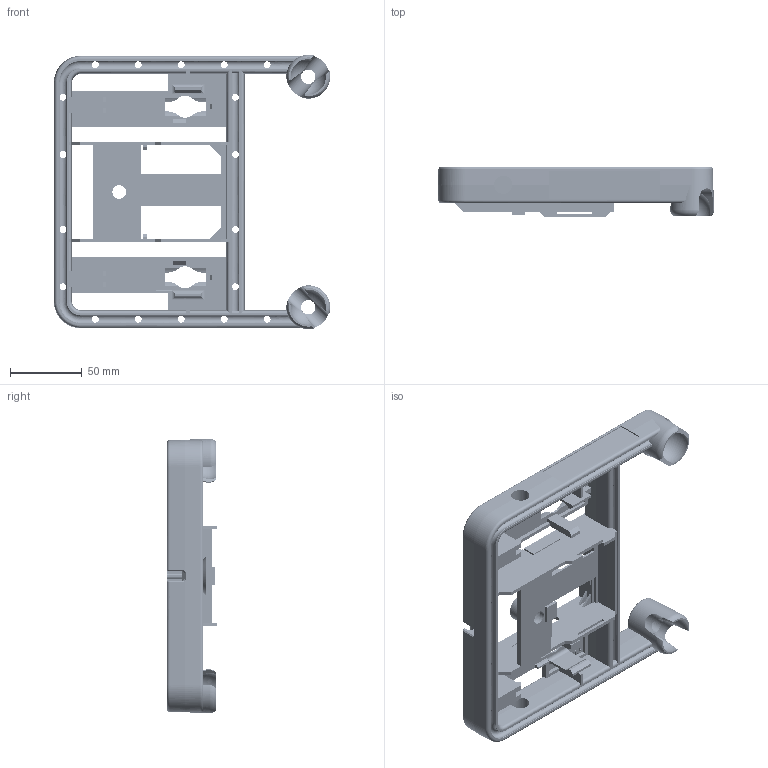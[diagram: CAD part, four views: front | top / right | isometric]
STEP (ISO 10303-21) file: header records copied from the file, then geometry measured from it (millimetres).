
FILE_DESCRIPTION(/* description */ (''),/* implementation_level */ '2;1');
FILE_NAME(/* name */ 'IEEE Frame v2.step',/* time_stamp */ '2024-08-23T13:40:14-04:00',/* author */ (''),/* organization */ (''),/* preprocessor_version */ 'ST-DEVELOPER v20',/* originating_system */ 'Autodesk Translation Framework v13.14.0.145',/* authorisation */ '');
FILE_SCHEMA (('AUTOMOTIVE_DESIGN { 1 0 10303 214 3 1 1 }'));
Products named in the file (10): IEEE Frame; Component9; part_object_id_2; part_object_id_4; part_object_id_6; part_object_id_8; part_object_id_10; part_object_id_12; part_object_id_14; part_object_id_16
Assembly tree (9 placements, depth 3):
  IEEE Frame
    Component9
      part_object_id_2
      part_object_id_4
      part_object_id_6
      part_object_id_8
      part_object_id_10
      part_object_id_12
      part_object_id_14
      part_object_id_16
Bounding box: 193.11 x 35.21 x 191.71 mm (x, y, z)
Volume: 247128.5 mm3; surface area: 120362.5 mm2
Topology: 1 solids, 1 shells, 51834 faces, 77916 edges, 26016 vertices
Faces by surface type: plane 51834
Entity records: 1012414 total; most frequent: DIRECTION 181622, ORIENTED_EDGE 155832, CARTESIAN_POINT 155785, LINE 77916, VECTOR 77916, EDGE_CURVE 77916, AXIS2_PLACEMENT_3D 51853, FACE_OUTER_BOUND 51834
